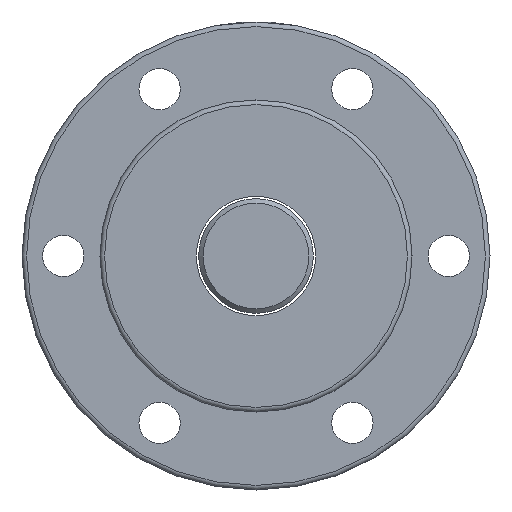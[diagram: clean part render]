
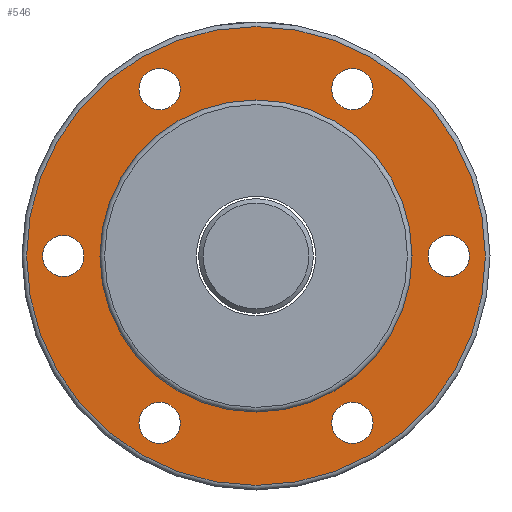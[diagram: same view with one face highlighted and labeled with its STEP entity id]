
A CAD part, left-side view. The second image highlights one B-rep face of the part: STEP entity #546.
In plain terms, the highlighted planar face has unit normal (-1, 0, 0).
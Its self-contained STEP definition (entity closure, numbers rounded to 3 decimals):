
#67=PLANE('',#647);
#132=ORIENTED_EDGE('',*,*,#225,.F.);
#133=ORIENTED_EDGE('',*,*,#224,.T.);
#134=ORIENTED_EDGE('',*,*,#222,.F.);
#135=ORIENTED_EDGE('',*,*,#218,.F.);
#136=ORIENTED_EDGE('',*,*,#214,.F.);
#137=ORIENTED_EDGE('',*,*,#210,.F.);
#138=ORIENTED_EDGE('',*,*,#206,.F.);
#139=ORIENTED_EDGE('',*,*,#202,.F.);
#202=EDGE_CURVE('',#255,#255,#298,.T.);
#206=EDGE_CURVE('',#259,#259,#302,.T.);
#210=EDGE_CURVE('',#263,#263,#306,.T.);
#214=EDGE_CURVE('',#267,#267,#310,.T.);
#218=EDGE_CURVE('',#271,#271,#314,.T.);
#222=EDGE_CURVE('',#275,#275,#318,.T.);
#224=EDGE_CURVE('',#277,#277,#320,.T.);
#225=EDGE_CURVE('',#278,#278,#321,.T.);
#255=VERTEX_POINT('',#911);
#259=VERTEX_POINT('',#922);
#263=VERTEX_POINT('',#933);
#267=VERTEX_POINT('',#944);
#271=VERTEX_POINT('',#955);
#275=VERTEX_POINT('',#966);
#277=VERTEX_POINT('',#971);
#278=VERTEX_POINT('',#974);
#298=CIRCLE('',#608,4.5);
#302=CIRCLE('',#615,4.5);
#306=CIRCLE('',#622,4.5);
#310=CIRCLE('',#629,4.5);
#314=CIRCLE('',#636,4.5);
#318=CIRCLE('',#643,4.5);
#320=CIRCLE('',#646,34.);
#321=CIRCLE('',#648,50.);
#377=EDGE_LOOP('',(#132));
#378=EDGE_LOOP('',(#133));
#379=EDGE_LOOP('',(#134));
#380=EDGE_LOOP('',(#135));
#381=EDGE_LOOP('',(#136));
#382=EDGE_LOOP('',(#137));
#383=EDGE_LOOP('',(#138));
#384=EDGE_LOOP('',(#139));
#464=FACE_BOUND('',#377,.T.);
#465=FACE_BOUND('',#378,.T.);
#466=FACE_BOUND('',#379,.T.);
#467=FACE_BOUND('',#380,.T.);
#468=FACE_BOUND('',#381,.T.);
#469=FACE_BOUND('',#382,.T.);
#470=FACE_BOUND('',#383,.T.);
#471=FACE_BOUND('',#384,.T.);
#546=ADVANCED_FACE('',(#464,#465,#466,#467,#468,#469,#470,#471),#67,.T.);
#608=AXIS2_PLACEMENT_3D('',#910,#712,#713);
#615=AXIS2_PLACEMENT_3D('',#921,#726,#727);
#622=AXIS2_PLACEMENT_3D('',#932,#740,#741);
#629=AXIS2_PLACEMENT_3D('',#943,#754,#755);
#636=AXIS2_PLACEMENT_3D('',#954,#768,#769);
#643=AXIS2_PLACEMENT_3D('',#965,#782,#783);
#646=AXIS2_PLACEMENT_3D('',#970,#788,#789);
#647=AXIS2_PLACEMENT_3D('',#972,#790,#791);
#648=AXIS2_PLACEMENT_3D('',#973,#792,#793);
#712=DIRECTION('',(-1.,0.,0.));
#713=DIRECTION('',(0.,-1.,0.));
#726=DIRECTION('',(-1.,0.,0.));
#727=DIRECTION('',(0.,-1.,0.));
#740=DIRECTION('',(-1.,0.,0.));
#741=DIRECTION('',(0.,-1.,0.));
#754=DIRECTION('',(-1.,0.,0.));
#755=DIRECTION('',(0.,-1.,0.));
#768=DIRECTION('',(-1.,0.,0.));
#769=DIRECTION('',(0.,-1.,0.));
#782=DIRECTION('',(-1.,0.,0.));
#783=DIRECTION('',(0.,-1.,0.));
#788=DIRECTION('',(1.,0.,0.));
#789=DIRECTION('',(0.,1.,0.));
#790=DIRECTION('',(-1.,0.,0.));
#791=DIRECTION('',(0.,-1.,0.));
#792=DIRECTION('',(1.,0.,0.));
#793=DIRECTION('',(0.,1.,0.));
#910=CARTESIAN_POINT('',(-30.,42.,0.));
#911=CARTESIAN_POINT('',(-30.,37.5,0.));
#921=CARTESIAN_POINT('',(-30.,-42.,0.));
#922=CARTESIAN_POINT('',(-30.,-46.5,0.));
#932=CARTESIAN_POINT('',(-30.,21.,-36.373));
#933=CARTESIAN_POINT('',(-30.,16.5,-36.373));
#943=CARTESIAN_POINT('',(-30.,-21.,-36.373));
#944=CARTESIAN_POINT('',(-30.,-25.5,-36.373));
#954=CARTESIAN_POINT('',(-30.,-21.,36.373));
#955=CARTESIAN_POINT('',(-30.,-25.5,36.373));
#965=CARTESIAN_POINT('',(-30.,21.,36.373));
#966=CARTESIAN_POINT('',(-30.,16.5,36.373));
#970=CARTESIAN_POINT('',(-30.,0.,0.));
#971=CARTESIAN_POINT('',(-30.,34.,0.));
#972=CARTESIAN_POINT('',(-30.,42.,0.));
#973=CARTESIAN_POINT('',(-30.,0.,0.));
#974=CARTESIAN_POINT('',(-30.,50.,0.));
